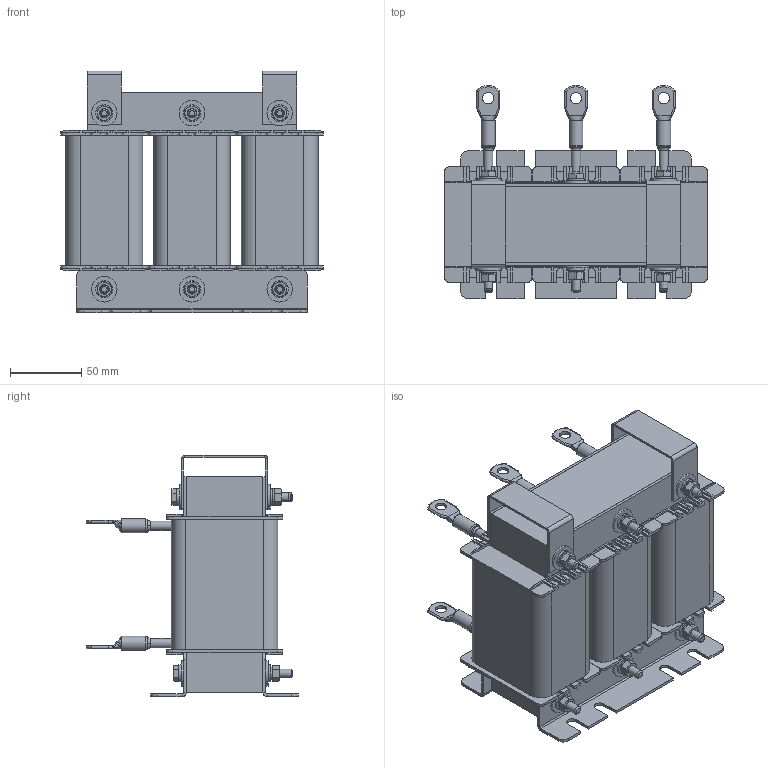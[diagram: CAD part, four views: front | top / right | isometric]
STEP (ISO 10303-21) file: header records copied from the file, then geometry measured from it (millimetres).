
FILE_DESCRIPTION(('STEP AP203'), '1');
FILE_NAME('Ñåòåâîé äðîññåëü _ ISF-37_76-4', '', ('UNSPECIFIED'), ('UNSPECIFIED'), 'C3D Converter', 'C3D Toolkit', '');
FILE_SCHEMA(('CONFIG_CONTROL_DESIGN'));
Length unit declared in the file: millimetre
Products named in the file (18): ISF-37_76-4; DIN 125 (A); ГОСТ 15591-70; DIN 127 (A); DIN 934
Assembly tree (69 placements, depth 3):
  ISF-37_76-4
    ISF-37_76-4
    ISF-37_76-4  x2
    ISF-37_76-4  x6
    ISF-37_76-4  x3
    ISF-37_76-4  x2
    (unnamed)  x12
      (unnamed)
    DIN 125 (A)  x12
      (unnamed)
    ГОСТ 15591-70  x6
      (unnamed)
    DIN 127 (A)  x6
      (unnamed)
    DIN 934  x6
      (unnamed)
    ISF-37_76-4  x2
    (unnamed)  x6
Bounding box: 185 x 149.96 x 170 mm (x, y, z)
Volume: 1687324 mm3; surface area: 400085.4 mm2
Topology: 71 solids, 71 shells, 1360 faces, 3342 edges, 2100 vertices
Faces by surface type: plane 884, cylinder 260, cone 102, bspline 84, torus 30
Full cylindrical faces by diameter (mm): 4.917 x6, 6 x37, 6.4 x24, 6.6 x9, 8 x12, 8.8 x6, 9.8 x6, 12 x12, 18 x12
Entity records: 14034 total; most frequent: CARTESIAN_POINT 4207, DIRECTION 1497, ORIENTED_EDGE 1398, EDGE_CURVE 699, AXIS2_PLACEMENT_3D 521, VERTEX_POINT 470, LINE 455, VECTOR 455
